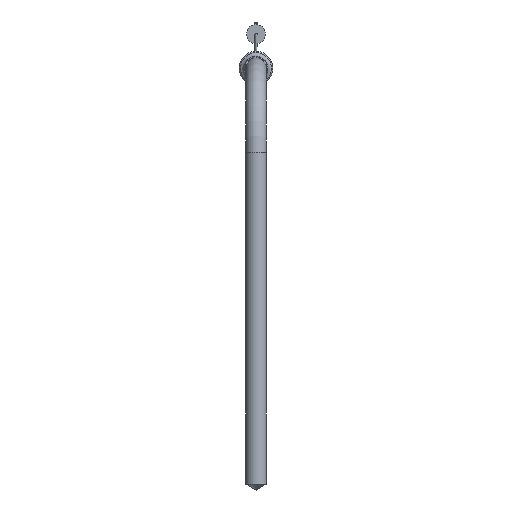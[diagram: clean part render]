
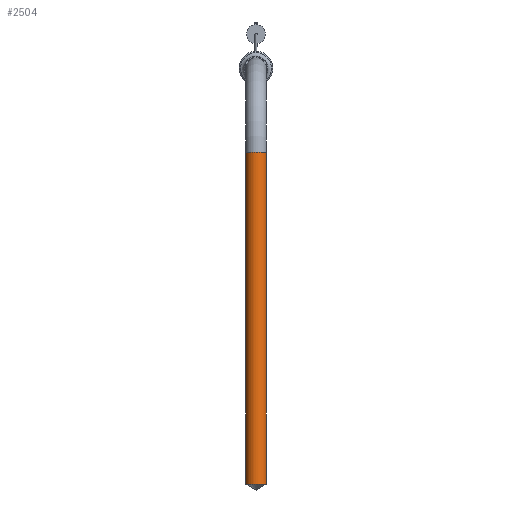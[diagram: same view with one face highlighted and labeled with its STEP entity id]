
A CAD part, top view. The second image highlights one B-rep face of the part: STEP entity #2504.
In plain terms, the highlighted cylindrical face has radius 2.4 mm (diameter 4.8 mm), a full revolution.
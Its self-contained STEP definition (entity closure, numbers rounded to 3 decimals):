
#189 = DIRECTION ( 'NONE',  ( 0., 1., 0. ) ) ;
#272 = DIRECTION ( 'NONE',  ( -1., 0., 0. ) ) ;
#458 = DIRECTION ( 'NONE',  ( 0., -1., 0. ) ) ;
#461 = EDGE_CURVE ( 'NONE', #2110, #2110, #1039, .T. ) ;
#480 = ORIENTED_EDGE ( 'NONE', *, *, #2462, .T. ) ;
#555 = AXIS2_PLACEMENT_3D ( 'NONE', #1322, #2217, #272 ) ;
#629 = VERTEX_POINT ( 'NONE', #1540 ) ;
#793 = CARTESIAN_POINT ( 'NONE',  ( -2.4, -20., 25. ) ) ;
#862 = EDGE_LOOP ( 'NONE', ( #2326 ) ) ;
#867 = FACE_OUTER_BOUND ( 'NONE', #2558, .T. ) ;
#1039 = CIRCLE ( 'NONE', #555, 2.4 ) ;
#1230 = AXIS2_PLACEMENT_3D ( 'NONE', #1292, #458, #1319 ) ;
#1274 = AXIS2_PLACEMENT_3D ( 'NONE', #1647, #189, #2529 ) ;
#1292 = CARTESIAN_POINT ( 'NONE',  ( 0., -20., 25. ) ) ;
#1305 = FACE_OUTER_BOUND ( 'NONE', #862, .T. ) ;
#1319 = DIRECTION ( 'NONE',  ( 0., 0., 1. ) ) ;
#1322 = CARTESIAN_POINT ( 'NONE',  ( 0., -20., 25. ) ) ;
#1540 = CARTESIAN_POINT ( 'NONE',  ( 0., -98.62, 27.4 ) ) ;
#1647 = CARTESIAN_POINT ( 'NONE',  ( 0., -98.62, 25. ) ) ;
#1714 = CIRCLE ( 'NONE', #1274, 2.4 ) ;
#2110 = VERTEX_POINT ( 'NONE', #793 ) ;
#2160 = CYLINDRICAL_SURFACE ( 'NONE', #1230, 2.4 ) ;
#2217 = DIRECTION ( 'NONE',  ( 0., -1., 0. ) ) ;
#2326 = ORIENTED_EDGE ( 'NONE', *, *, #461, .T. ) ;
#2462 = EDGE_CURVE ( 'NONE', #629, #629, #1714, .T. ) ;
#2504 = ADVANCED_FACE ( 'NONE', ( #867, #1305 ), #2160, .T. ) ;
#2529 = DIRECTION ( 'NONE',  ( 0., 0., 1. ) ) ;
#2558 = EDGE_LOOP ( 'NONE', ( #480 ) ) ;
